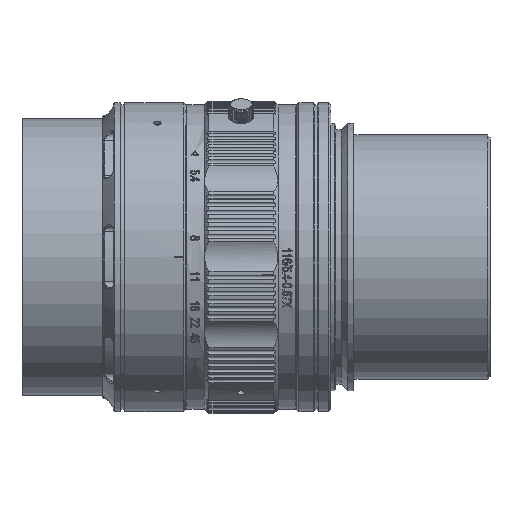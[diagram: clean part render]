
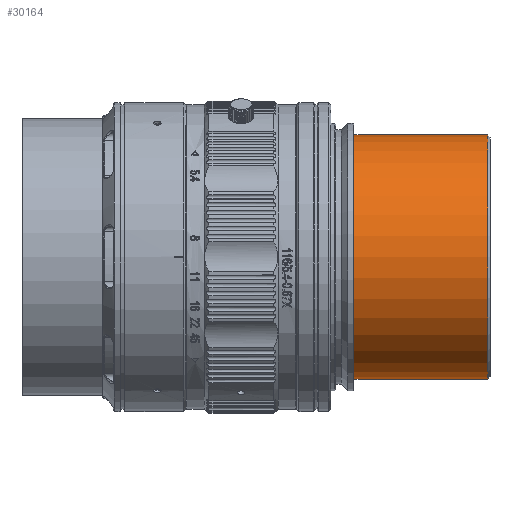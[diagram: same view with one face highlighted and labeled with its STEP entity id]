
A CAD part, top view. The second image highlights one B-rep face of the part: STEP entity #30164.
In plain terms, the highlighted cylindrical face has radius 26.5 mm (diameter 53 mm), a partial arc.
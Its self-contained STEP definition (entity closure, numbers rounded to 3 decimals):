
#1380=CARTESIAN_POINT('',(15.266,0.,0.));
#1381=DIRECTION('',(1.,0.,0.));
#1382=DIRECTION('',(0.,1.,0.));
#1383=AXIS2_PLACEMENT_3D('',#1380,#1381,#1382);
#1385=DIRECTION('',(1.,0.,0.));
#1386=VECTOR('',#1385,29.);
#1387=CARTESIAN_POINT('',(15.266,-26.5,0.));
#1388=LINE('',#1387,#1386);
#1403=CARTESIAN_POINT('',(44.266,0.,0.));
#1404=DIRECTION('',(-1.,0.,0.));
#1405=DIRECTION('',(0.,-1.,0.));
#1406=AXIS2_PLACEMENT_3D('',#1403,#1404,#1405);
#1408=CARTESIAN_POINT('',(44.266,0.,0.));
#1409=DIRECTION('',(-1.,0.,0.));
#1410=DIRECTION('',(0.,0.,1.));
#1411=AXIS2_PLACEMENT_3D('',#1408,#1409,#1410);
#1417=DIRECTION('',(1.,0.,0.));
#1418=VECTOR('',#1417,29.);
#1419=CARTESIAN_POINT('',(15.266,26.5,0.));
#1420=LINE('',#1419,#1418);
#27694=CARTESIAN_POINT('',(15.266,-26.5,0.));
#27695=CARTESIAN_POINT('',(15.266,26.5,0.));
#27696=VERTEX_POINT('',#27694);
#27697=VERTEX_POINT('',#27695);
#27698=CARTESIAN_POINT('',(44.266,26.5,0.));
#27700=VERTEX_POINT('',#27698);
#27702=CARTESIAN_POINT('',(44.266,-26.5,0.));
#27703=VERTEX_POINT('',#27702);
#27710=CARTESIAN_POINT('',(44.266,0.,26.5));
#27711=VERTEX_POINT('',#27710);
#30152=CARTESIAN_POINT('',(-55.023,0.,0.));
#30153=DIRECTION('',(1.,0.,0.));
#30154=DIRECTION('',(0.,-1.,0.));
#30155=AXIS2_PLACEMENT_3D('',#30152,#30153,#30154);
#30156=CYLINDRICAL_SURFACE('',#30155,26.5);
#30157=ORIENTED_EDGE('',*,*,#30141,.F.);
#30158=ORIENTED_EDGE('',*,*,#30139,.F.);
#30159=ORIENTED_EDGE('',*,*,#30111,.F.);
#30160=ORIENTED_EDGE('',*,*,#30094,.F.);
#30161=ORIENTED_EDGE('',*,*,#30108,.T.);
#30162=EDGE_LOOP('',(#30157,#30158,#30159,#30160,#30161));
#30163=FACE_OUTER_BOUND('',#30162,.F.);
#1384=CIRCLE('',#1383,26.5);
#1407=CIRCLE('',#1406,26.5);
#1412=CIRCLE('',#1411,26.5);
#30094=EDGE_CURVE('',#27697,#27696,#1384,.T.);
#30108=EDGE_CURVE('',#27697,#27700,#1420,.T.);
#30111=EDGE_CURVE('',#27696,#27703,#1388,.T.);
#30139=EDGE_CURVE('',#27703,#27711,#1407,.T.);
#30141=EDGE_CURVE('',#27711,#27700,#1412,.T.);
#30164=ADVANCED_FACE('',(#30163),#30156,.T.);
